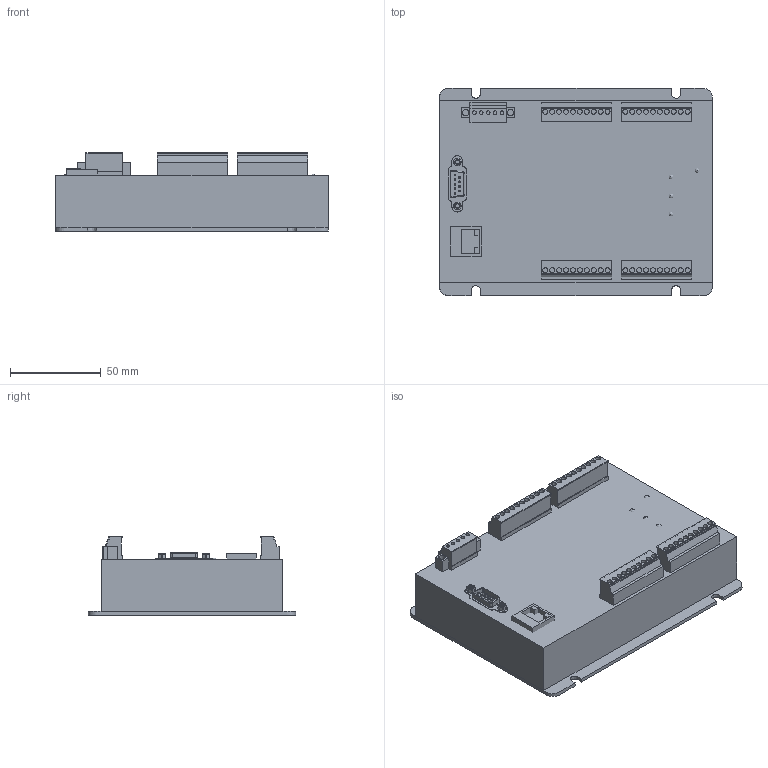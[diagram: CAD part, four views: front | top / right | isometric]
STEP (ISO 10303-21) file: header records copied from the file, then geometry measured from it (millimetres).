
FILE_DESCRIPTION(/* description */ (''),/* implementation_level */ '2;1');
FILE_NAME(/* name */ 'ECI0032模型2.step',/* time_stamp */ '2020-09-05T19:41:22+08:00',/* author */ (''),/* organization */ (''),/* preprocessor_version */ 'ST-DEVELOPER v16',/* originating_system */ 'SIEMENS PLM Software NX 10.0',/* authorisation */ '');
FILE_SCHEMA (('AUTOMOTIVE_DESIGN { 1 0 10303 214 3 1 1 1 }'));
Length unit declared in the file: millimetre
Products named in the file (1): ECI0032模型
Bounding box: 150 x 114 x 43 mm (x, y, z)
Volume: 481433.8 mm3; surface area: 64877.3 mm2
Topology: 14 solids, 14 shells, 339 faces, 782 edges, 505 vertices
Faces by surface type: plane 196, cylinder 99, sphere 16, extrusion 13, bspline 13, torus 2
Full cylindrical faces by diameter (mm): 1 x9, 2 x2, 2.1 x2, 2.7 x40
Entity records: 9633 total; most frequent: CARTESIAN_POINT 2432, DIRECTION 1464, ORIENTED_EDGE 1304, EDGE_CURVE 652, AXIS2_PLACEMENT_3D 523, EDGE_LOOP 469, VERTEX_POINT 459, VECTOR 418
